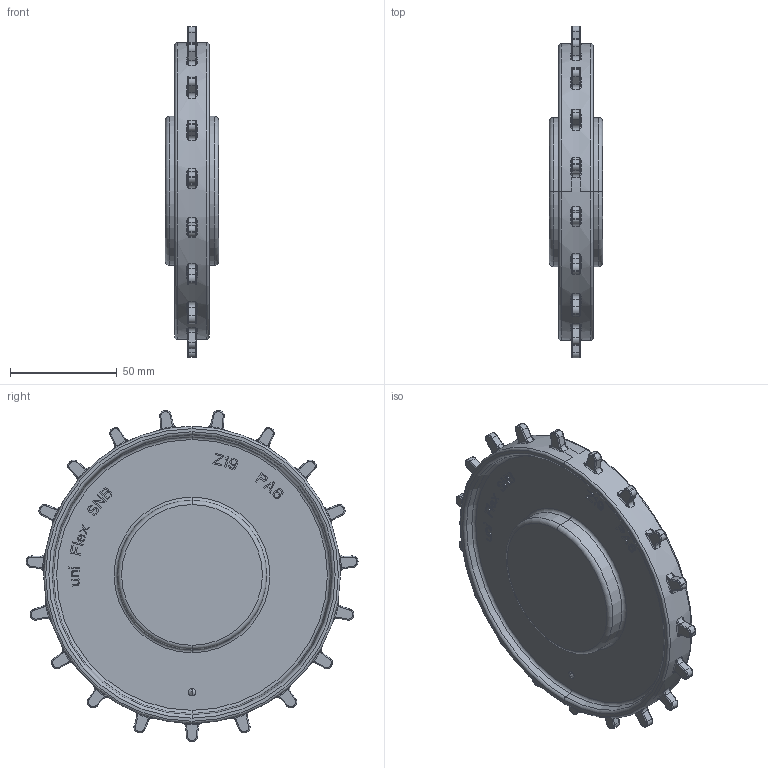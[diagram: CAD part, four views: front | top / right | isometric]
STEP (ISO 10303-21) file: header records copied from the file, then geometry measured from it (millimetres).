
FILE_DESCRIPTION((''),'2;1');
FILE_NAME('213Z19','2012-01-12T',('mth'),(''),'PRO/ENGINEER BY PARAMETRIC TECHNOLOGY CORPORATION, 2010280','PRO/ENGINEER BY PARAMETRIC TECHNOLOGY CORPORATION, 2010280','');
FILE_SCHEMA(('CONFIG_CONTROL_DESIGN','SHAPE_APPEARANCE_LAYERS_GROUPS'));
Length unit declared in the file: millimetre
Products named in the file (1): 213Z19
Bounding box: 25 x 155.71 x 155.21 mm (x, y, z)
Volume: 185704.3 mm3; surface area: 45800.6 mm2
Topology: 1 solids, 1 shells, 1014 faces, 2503 edges, 1535 vertices
Faces by surface type: plane 507, torus 248, cylinder 177, bspline 76, cone 6
Entity records: 34947 total; most frequent: CARTESIAN_POINT 10940, DIRECTION 5051, ORIENTED_EDGE 5002, EDGE_CURVE 2501, AXIS2_PLACEMENT_3D 1764, VERTEX_POINT 1535, VECTOR 1523, LINE 1523
